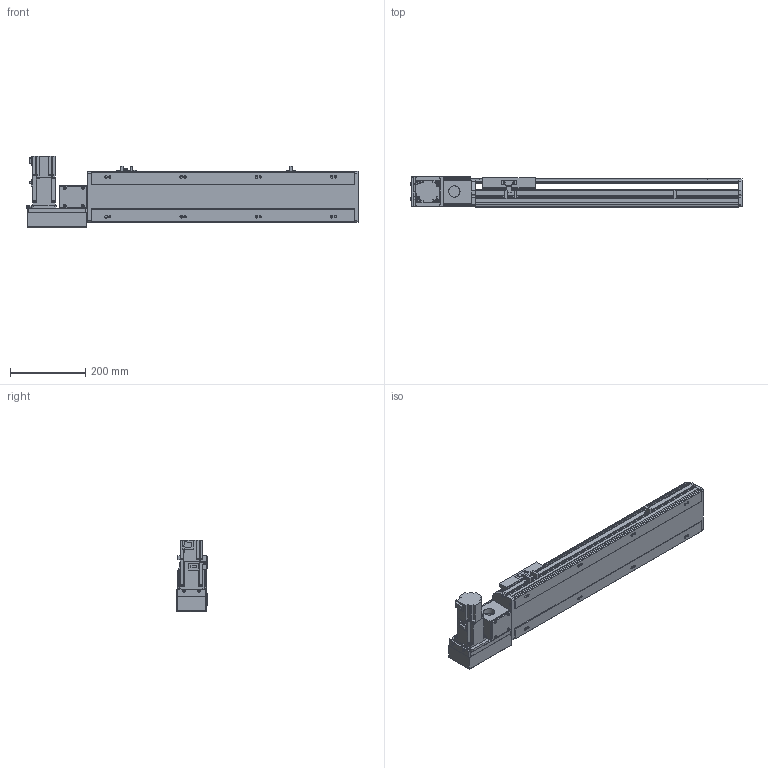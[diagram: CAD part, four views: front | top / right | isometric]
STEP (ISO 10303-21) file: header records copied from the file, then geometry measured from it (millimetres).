
FILE_DESCRIPTION( ( 'STEP AP214' ), '1' );
FILE_NAME( 'x:/temp/worker_27/temp/exporttempdir_6708_289_aK9yK/format_0/PBS140-P40-S450-L-T40-C1-N(0).stp', '2022-06-06T01:00:18', ( 'License CC BY-ND 4.0' ), ( 'CADENAS' ), ' ', 'PARTsolutions', ' ' );
FILE_SCHEMA( ( 'AUTOMOTIVE_DESIGN { 1 0 10303 214 1 1 1 1 }' ) );
Length unit declared in the file: millimetre
Products named in the file (7): PBS140-P40-S450-L-T40-C1-N(0); _PBS140-S450()_body; _PBS140T-L_motors; _T40-p1; _PBS140_sliser; _PBS140_plant; _PBS140_sensor
Assembly tree (8 placements, depth 2):
  PBS140-P40-S450-L-T40-C1-N(0)
    _PBS140-S450()_body
    _PBS140T-L_motors
    _T40-p1
    _PBS140_sliser
    _PBS140_plant
    _PBS140_sensor  x3
Bounding box: 883 x 80.5 x 189.7 mm (x, y, z)
Volume: 4208963.6 mm3; surface area: 757626.8 mm2
Topology: 8 solids, 8 shells, 1011 faces, 2676 edges, 1749 vertices
Faces by surface type: plane 668, cylinder 299, cone 34, sphere 8, torus 2
Full cylindrical faces by diameter (mm): 3.242 x4, 4 x2, 4.134 x4, 4.4 x8, 4.5 x2, 4.8 x4, 4.917 x16, 5.5 x7, 6 x2, 7 x10, 7.5 x8, 8 x12, 8.5 x4, 10.5 x8, 14 x1, 30 x2, 50 x2
Entity records: 36721 total; most frequent: CARTESIAN_POINT 5579, DIRECTION 4917, ORIENTED_EDGE 4672, EDGE_CURVE 2336, AXIS2_PLACEMENT_3D 1687, VERTEX_POINT 1605, LINE 1543, VECTOR 1543
